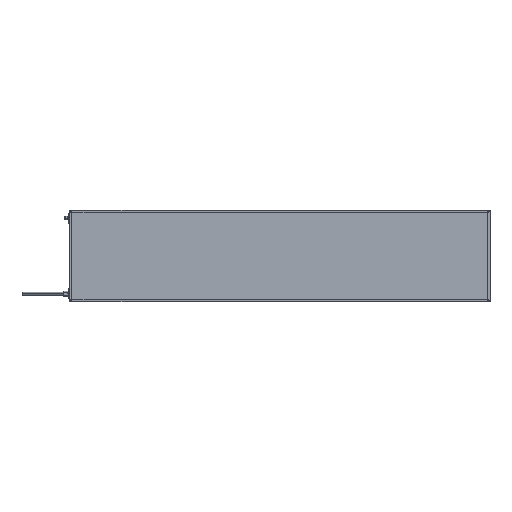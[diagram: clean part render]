
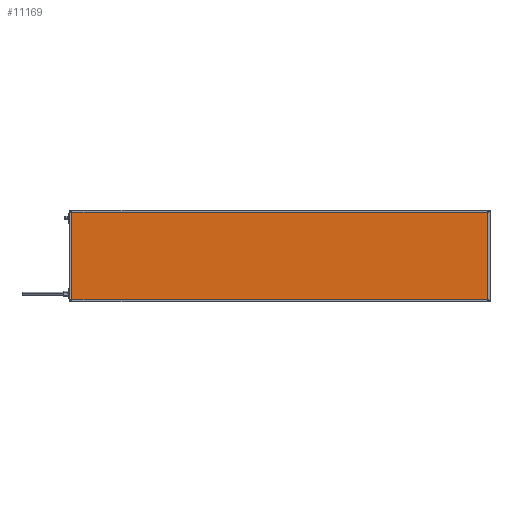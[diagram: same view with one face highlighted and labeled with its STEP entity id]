
A CAD part, top view. The second image highlights one B-rep face of the part: STEP entity #11169.
In plain terms, the highlighted planar face has unit normal (0, 0, 1).
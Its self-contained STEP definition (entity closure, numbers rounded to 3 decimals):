
#305 = VERTEX_POINT ( 'NONE', #13820 ) ;
#466 = CARTESIAN_POINT ( 'NONE',  ( 4., 0., 41.85 ) ) ;
#520 = ORIENTED_EDGE ( 'NONE', *, *, #1446, .T. ) ;
#698 = ORIENTED_EDGE ( 'NONE', *, *, #15801, .T. ) ;
#987 = CARTESIAN_POINT ( 'NONE',  ( 4., 4., 41.85 ) ) ;
#1430 = AXIS2_PLACEMENT_3D ( 'NONE', #2968, #14566, #6159 ) ;
#1446 = EDGE_CURVE ( 'NONE', #16015, #305, #12304, .T. ) ;
#2088 = LINE ( 'NONE', #466, #15042 ) ;
#2560 = VERTEX_POINT ( 'NONE', #9945 ) ;
#2691 = EDGE_CURVE ( 'NONE', #305, #16325, #10214, .T. ) ;
#2835 = CARTESIAN_POINT ( 'NONE',  ( 0., 296., 41.85 ) ) ;
#2968 = CARTESIAN_POINT ( 'NONE',  ( 0., 0., 41.85 ) ) ;
#3621 = EDGE_CURVE ( 'NONE', #16325, #2560, #16615, .T. ) ;
#4828 = CARTESIAN_POINT ( 'NONE',  ( 1396., 0., 41.85 ) ) ;
#5068 = VECTOR ( 'NONE', #16529, 1000. ) ;
#6108 = DIRECTION ( 'NONE',  ( 0., -1., 0. ) ) ;
#6159 = DIRECTION ( 'NONE',  ( -1., 0., 0. ) ) ;
#8099 = CARTESIAN_POINT ( 'NONE',  ( 0., 4., 41.85 ) ) ;
#9663 = PLANE ( 'NONE',  #1430 ) ;
#9945 = CARTESIAN_POINT ( 'NONE',  ( 4., 296., 41.85 ) ) ;
#10214 = LINE ( 'NONE', #4828, #10655 ) ;
#10589 = ORIENTED_EDGE ( 'NONE', *, *, #2691, .T. ) ;
#10655 = VECTOR ( 'NONE', #14245, 1000. ) ;
#11169 = ADVANCED_FACE ( 'NONE', ( #16602 ), #9663, .F. ) ;
#11739 = EDGE_LOOP ( 'NONE', ( #10589, #13990, #698, #520 ) ) ;
#12304 = LINE ( 'NONE', #8099, #16159 ) ;
#13290 = CARTESIAN_POINT ( 'NONE',  ( 1396., 296., 41.85 ) ) ;
#13820 = CARTESIAN_POINT ( 'NONE',  ( 1396., 4., 41.85 ) ) ;
#13990 = ORIENTED_EDGE ( 'NONE', *, *, #3621, .T. ) ;
#14245 = DIRECTION ( 'NONE',  ( 0., 1., 0. ) ) ;
#14566 = DIRECTION ( 'NONE',  ( 0., 0., -1. ) ) ;
#15042 = VECTOR ( 'NONE', #6108, 1000. ) ;
#15801 = EDGE_CURVE ( 'NONE', #2560, #16015, #2088, .T. ) ;
#16015 = VERTEX_POINT ( 'NONE', #987 ) ;
#16159 = VECTOR ( 'NONE', #17858, 1000. ) ;
#16325 = VERTEX_POINT ( 'NONE', #13290 ) ;
#16529 = DIRECTION ( 'NONE',  ( -1., 0., 0. ) ) ;
#16602 = FACE_OUTER_BOUND ( 'NONE', #11739, .T. ) ;
#16615 = LINE ( 'NONE', #2835, #5068 ) ;
#17858 = DIRECTION ( 'NONE',  ( 1., 0., 0. ) ) ;
